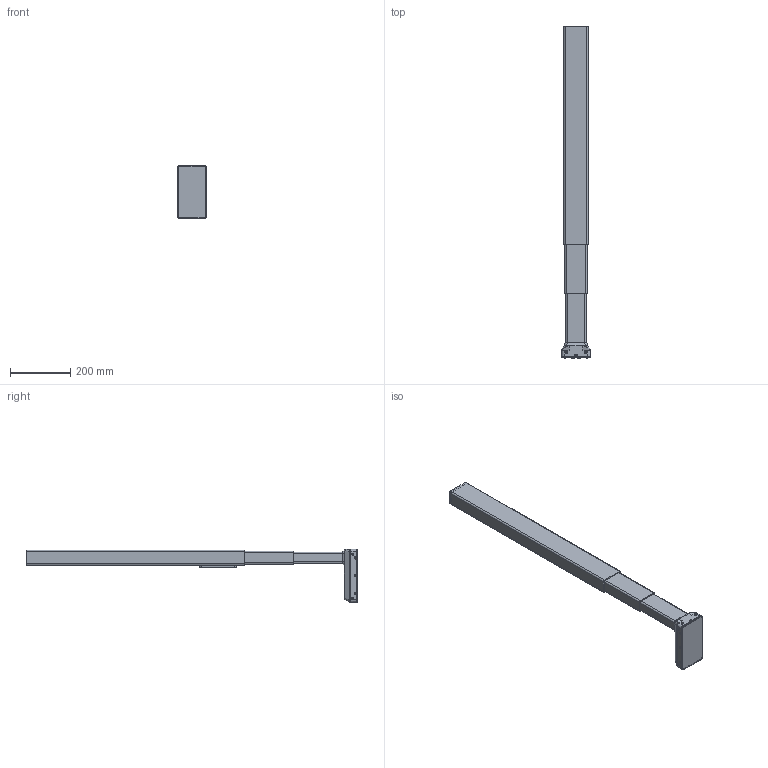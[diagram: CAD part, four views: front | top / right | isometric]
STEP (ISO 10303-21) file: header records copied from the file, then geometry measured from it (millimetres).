
FILE_DESCRIPTION((''),'2;1');
FILE_NAME('1041W4025','2023-11-15T14:44:33',('jak'),(''),'CREO PARAMETRIC BY PTC INC, 2022024','CREO PARAMETRIC BY PTC INC, 2022024','');
FILE_SCHEMA(('AUTOMOTIVE_DESIGN { 1 0 10303 214 1 1 1 1 }'));
Length unit declared in the file: millimetre
Products named in the file (1): 1041W4025
Bounding box: 96.5 x 1100 x 178.6 mm (x, y, z)
Volume: 4549372.8 mm3; surface area: 321106.1 mm2
Topology: 1 solids, 5 shells, 871 faces, 2183 edges, 1357 vertices
Faces by surface type: plane 379, cylinder 338, bspline 68, torus 60, sphere 14, cone 12
Entity records: 33595 total; most frequent: CARTESIAN_POINT 11661, ORIENTED_EDGE 4362, DIRECTION 4059, EDGE_CURVE 2181, AXIS2_PLACEMENT_3D 1441, VERTEX_POINT 1357, VECTOR 1177, LINE 1177
